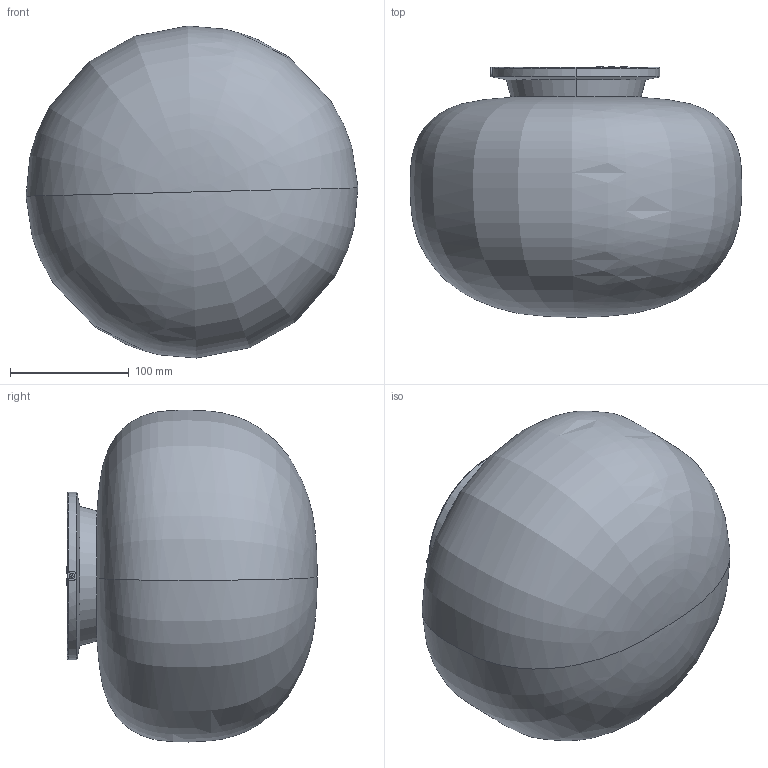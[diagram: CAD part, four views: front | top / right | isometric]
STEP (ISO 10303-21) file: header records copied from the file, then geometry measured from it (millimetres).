
FILE_DESCRIPTION (( 'STEP AP203' ), '1' );
FILE_NAME ('10 54321 FP 2023U010 Supernate Ceiling 280.STEP', '2023-11-29T07:21:58', ( '' ), ( '' ), 'SwSTEP 2.0', 'SolidWorks 2022', '' );
FILE_SCHEMA (( 'CONFIG_CONTROL_DESIGN' ));
Length unit declared in the file: millimetre
Products named in the file (14): 21 54360 Supernate glass shade Ø280; All nuts_380125 M10,1 H3,8; 20 54400 Cable protector, black plastic Ø8xØ6x11; Assem5^10 54321 FP 2023U010 Supernate Ceiling 280; 10 54321 FP 2023U010 Supernate Ceiling 280; Baseplate for Terminal block 3 pole; 18 54346 Supernate ceiling fitting housing Ø280; 30 50070 FE strain relief with 2 vulcanized fibre clamps for Ø10 tube; Terminal block 3 pole - small; Plastic holding bracket M70x2,0 with facet, black; All E27 and E26 sockets_16 51672 E27 socket, black, plain, TP FPL; 18 54365 Supernate E27 socket cup Ø45x68 ; All locking washers_38483 Locking washer M10xØ10,5xØ14,5x1,5; All faceted threaded tube_19 53859 Faceted threaded tube M10x1x35
Assembly tree (16 placements, depth 3):
  10 54321 FP 2023U010 Supernate Ceiling 280
    18 54346 Supernate ceiling fitting housing Ø280
    Assem5^10 54321 FP 2023U010 Supernate Ceiling 280
      21 54360 Supernate glass shade Ø280
      Plastic holding bracket M70x2,0 with facet, black
    18 54365 Supernate E27 socket cup Ø45x68 
    All E27 and E26 sockets_16 51672 E27 socket, black, plain, TP FPL
    All faceted threaded tube_19 53859 Faceted threaded tube M10x1x35
    All nuts_380125 M10,1 H3,8  x2
    30 50070 FE strain relief with 2 vulcanized fibre clamps for Ø10 tube
    All locking washers_38483 Locking washer M10xØ10,5xØ14,5x1,5  x3
    Baseplate for Terminal block 3 pole
    Terminal block 3 pole - small
    20 54400 Cable protector, black plastic Ø8xØ6x11
Bounding box: 279.8 x 210.91 x 279.88 mm (x, y, z)
Volume: 692814.5 mm3; surface area: 513834.3 mm2
Topology: 59 solids, 59 shells, 949 faces, 2143 edges, 1333 vertices
Faces by surface type: plane 387, cylinder 301, bspline 168, cone 60, torus 27, sphere 6
Entity records: 26970 total; most frequent: CARTESIAN_POINT 11134, DIRECTION 2943, ORIENTED_EDGE 2942, EDGE_CURVE 1471, AXIS2_PLACEMENT_3D 1161, VERTEX_POINT 929, EDGE_LOOP 728, FACE_OUTER_BOUND 633
